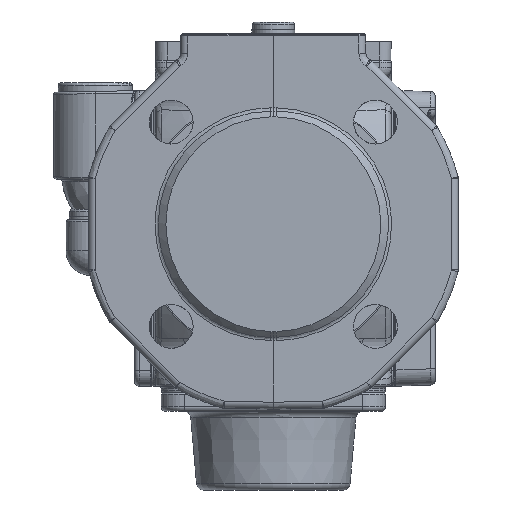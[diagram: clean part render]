
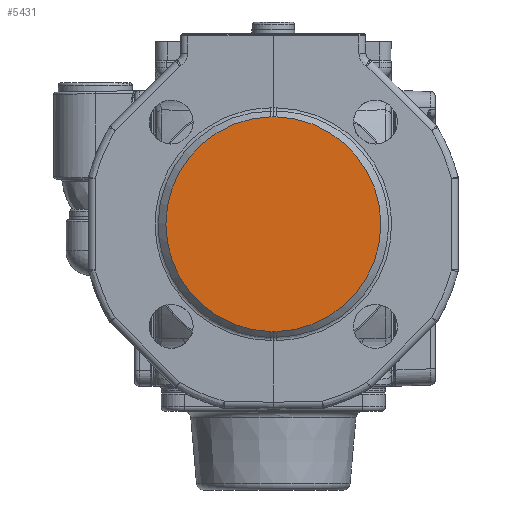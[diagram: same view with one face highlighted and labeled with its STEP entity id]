
A CAD part, left-side view. The second image highlights one B-rep face of the part: STEP entity #5431.
In plain terms, the highlighted planar face has unit normal (-1, 0, 0).
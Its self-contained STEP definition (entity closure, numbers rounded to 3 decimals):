
#2719=B_SPLINE_CURVE_WITH_KNOTS('',3,(#66843,#66844,#66845,#66846,#66847,
#66848,#66849),.UNSPECIFIED.,.F.,.F.,(4,3,4),(0.,0.37,1.),
 .UNSPECIFIED.);
#2723=B_SPLINE_CURVE_WITH_KNOTS('',3,(#66892,#66893,#66894,#66895,#66896,
#66897,#66898),.UNSPECIFIED.,.F.,.F.,(4,3,4),(0.,0.312,1.),
 .UNSPECIFIED.);
#2727=B_SPLINE_CURVE_WITH_KNOTS('',3,(#66956,#66957,#66958,#66959,#66960,
#66961,#66962),.UNSPECIFIED.,.F.,.F.,(4,3,4),(0.,0.312,1.),
 .UNSPECIFIED.);
#2731=B_SPLINE_CURVE_WITH_KNOTS('',3,(#66999,#67000,#67001,#67002,#67003,
#67004,#67005),.UNSPECIFIED.,.F.,.F.,(4,3,4),(0.,0.37,1.),
 .UNSPECIFIED.);
#5431=ADVANCED_FACE('',(#9578),#7582,.T.);
#7582=PLANE('',#50132);
#9578=FACE_OUTER_BOUND('',#12240,.T.);
#12240=EDGE_LOOP('',(#28529,#28530,#28531,#28532,#28533,#28534));
#14562=CIRCLE('',#48373,46.5);
#14563=CIRCLE('',#48375,46.5);
#28529=ORIENTED_EDGE('',*,*,#41151,.F.);
#28530=ORIENTED_EDGE('',*,*,#41148,.F.);
#28531=ORIENTED_EDGE('',*,*,#41157,.F.);
#28532=ORIENTED_EDGE('',*,*,#41159,.F.);
#28533=ORIENTED_EDGE('',*,*,#41153,.F.);
#28534=ORIENTED_EDGE('',*,*,#41144,.F.);
#36760=VERTEX_POINT('',#66842);
#36761=VERTEX_POINT('',#66850);
#36764=VERTEX_POINT('',#66891);
#36765=VERTEX_POINT('',#66899);
#36767=VERTEX_POINT('',#66963);
#36770=VERTEX_POINT('',#66998);
#41144=EDGE_CURVE('',#36760,#36761,#2719,.T.);
#41148=EDGE_CURVE('',#36764,#36765,#2723,.T.);
#41151=EDGE_CURVE('',#36765,#36760,#14562,.T.);
#41153=EDGE_CURVE('',#36761,#36767,#2727,.T.);
#41157=EDGE_CURVE('',#36770,#36764,#2731,.T.);
#41159=EDGE_CURVE('',#36767,#36770,#14563,.T.);
#48373=AXIS2_PLACEMENT_3D('',#66926,#53522,#53523);
#48375=AXIS2_PLACEMENT_3D('',#67027,#53526,#53527);
#50132=AXIS2_PLACEMENT_3D('',#90380,#58038,#58039);
#53522=DIRECTION('',(1.,0.,0.));
#53523=DIRECTION('',(0.,1.,0.));
#53526=DIRECTION('',(1.,0.,0.));
#53527=DIRECTION('',(0.,1.,0.));
#58038=DIRECTION('',(-1.,0.,0.));
#58039=DIRECTION('',(0.,1.,0.));
#66842=CARTESIAN_POINT('',(-120.,0.148,45.486));
#66843=CARTESIAN_POINT('',(-120.,0.148,45.486));
#66844=CARTESIAN_POINT('',(-120.,0.006,45.489));
#66845=CARTESIAN_POINT('',(-120.,-0.135,45.493));
#66846=CARTESIAN_POINT('',(-120.,-0.277,45.496));
#66847=CARTESIAN_POINT('',(-120.,-0.518,45.502));
#66848=CARTESIAN_POINT('',(-120.,-0.759,45.508));
#66849=CARTESIAN_POINT('',(-120.,-1.,45.514));
#66850=CARTESIAN_POINT('',(-120.,-1.,45.514));
#66891=CARTESIAN_POINT('',(-120.,-1.,-47.514));
#66892=CARTESIAN_POINT('',(-120.,-1.,-47.514));
#66893=CARTESIAN_POINT('',(-120.,-0.881,-47.511));
#66894=CARTESIAN_POINT('',(-120.,-0.762,-47.508));
#66895=CARTESIAN_POINT('',(-120.,-0.642,-47.505));
#66896=CARTESIAN_POINT('',(-120.,-0.379,-47.499));
#66897=CARTESIAN_POINT('',(-120.,-0.116,-47.492));
#66898=CARTESIAN_POINT('',(-120.,0.148,-47.486));
#66899=CARTESIAN_POINT('',(-120.,0.148,-47.486));
#66926=CARTESIAN_POINT('',(-120.,-1.,-1.));
#66956=CARTESIAN_POINT('',(-120.,-1.,45.514));
#66957=CARTESIAN_POINT('',(-120.,-1.119,45.511));
#66958=CARTESIAN_POINT('',(-120.,-1.238,45.508));
#66959=CARTESIAN_POINT('',(-120.,-1.358,45.505));
#66960=CARTESIAN_POINT('',(-120.,-1.621,45.499));
#66961=CARTESIAN_POINT('',(-120.,-1.884,45.492));
#66962=CARTESIAN_POINT('',(-120.,-2.148,45.486));
#66963=CARTESIAN_POINT('',(-120.,-2.148,45.486));
#66998=CARTESIAN_POINT('',(-120.,-2.148,-47.486));
#66999=CARTESIAN_POINT('',(-120.,-2.148,-47.486));
#67000=CARTESIAN_POINT('',(-120.,-2.006,-47.489));
#67001=CARTESIAN_POINT('',(-120.,-1.865,-47.493));
#67002=CARTESIAN_POINT('',(-120.,-1.723,-47.496));
#67003=CARTESIAN_POINT('',(-120.,-1.482,-47.502));
#67004=CARTESIAN_POINT('',(-120.,-1.241,-47.508));
#67005=CARTESIAN_POINT('',(-120.,-1.,-47.514));
#67027=CARTESIAN_POINT('',(-120.,-1.,-1.));
#90380=CARTESIAN_POINT('',(-120.,-1.,-1.));
